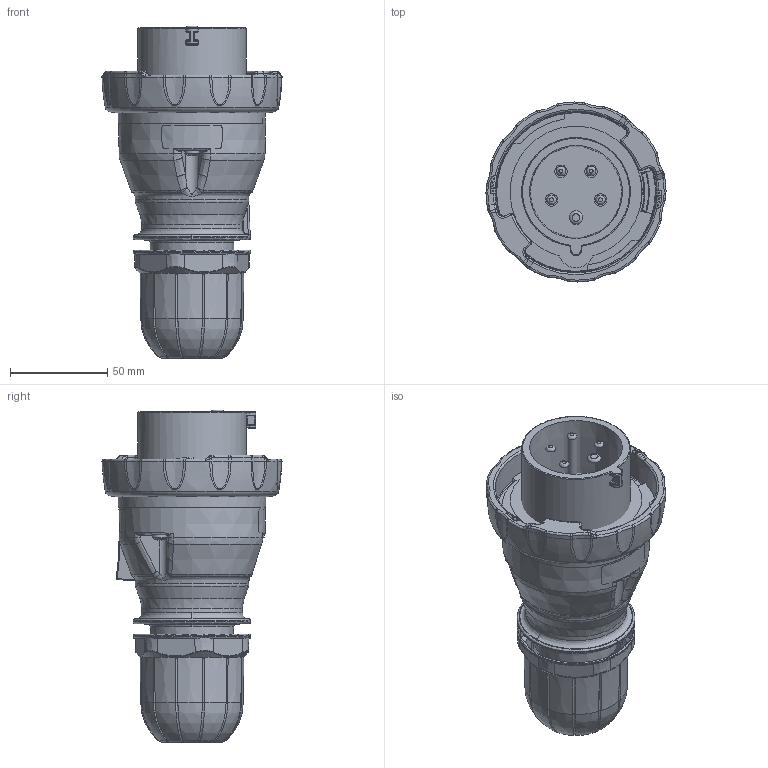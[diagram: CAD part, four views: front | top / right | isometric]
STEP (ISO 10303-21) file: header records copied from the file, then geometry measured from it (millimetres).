
FILE_DESCRIPTION(/* description */ (''),/* implementation_level */ '2;1');
FILE_NAME(/* name */ '4000882.stp',/* time_stamp */ '2016-09-22T08:01:39+02:00',/* author */ (''),/* organization */ (''),/* preprocessor_version */ 'ST-DEVELOPER v16',/* originating_system */ 'SIEMENS PLM Software NX 11.0',/* authorisation */ '');
FILE_SCHEMA (('AUTOMOTIVE_DESIGN { 1 0 10303 214 3 1 1 1 }'));
Length unit declared in the file: millimetre
Products named in the file (1): 4000882_LINKEDEXT_jt
Bounding box: 92.77 x 92.77 x 171.1 mm (x, y, z)
Surface area: 78832.9 mm2 (no closed solid volume)
Topology: 0 solids, 36 shells, 560 faces, 1933 edges, 1342 vertices
Faces by surface type: bspline 197, cylinder 107, plane 101, torus 67, cone 61, sphere 15, extrusion 12
Full cylindrical faces by diameter (mm): 5 x1, 7.6 x3, 56 x1, 60.7 x2
Entity records: 38574 total; most frequent: CARTESIAN_POINT 21968, ORIENTED_EDGE 2903, DIRECTION 2425, EDGE_CURVE 1855, VERTEX_POINT 1320, AXIS2_PLACEMENT_3D 976, B_SPLINE_CURVE_WITH_KNOTS 782, EDGE_LOOP 616
